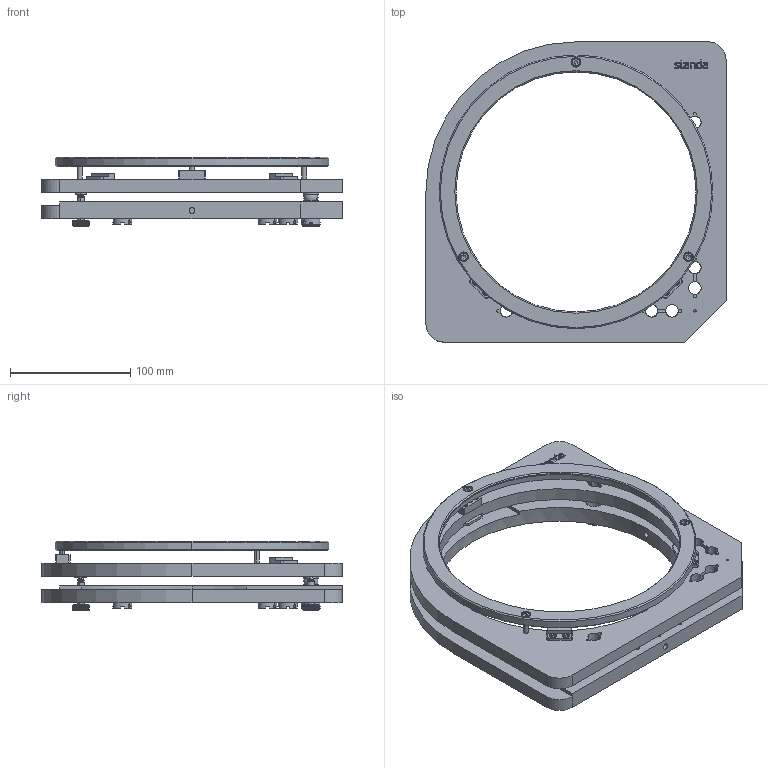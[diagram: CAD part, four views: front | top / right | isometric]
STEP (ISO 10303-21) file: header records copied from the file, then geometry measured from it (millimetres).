
FILE_DESCRIPTION((''),'2;1');
FILE_NAME('5LAM126-8 SB.stp','2017-10-10T15:10:38',(''),(''),'Mechanical Desktop 2011','Mechanical Desktop 2011',', , ');
FILE_SCHEMA(('CONFIG_CONTROL_DESIGN'));
Length unit declared in the file: millimetre
Products named in the file (1): Product
Bounding box: 250 x 250 x 58.31 mm (x, y, z)
Volume: 652679.2 mm3; surface area: 190410 mm2
Topology: 1 solids, 15 shells, 2683 faces, 7581 edges, 4990 vertices
Faces by surface type: plane 1056, cylinder 948, bspline 469, cone 158, torus 34, sphere 18
Entity records: 96545 total; most frequent: CARTESIAN_POINT 31401, ORIENTED_EDGE 15054, DIRECTION 12140, EDGE_CURVE 7527, VERTEX_POINT 4990, AXIS2_PLACEMENT_3D 4471, VECTOR 3198, LINE 3198
